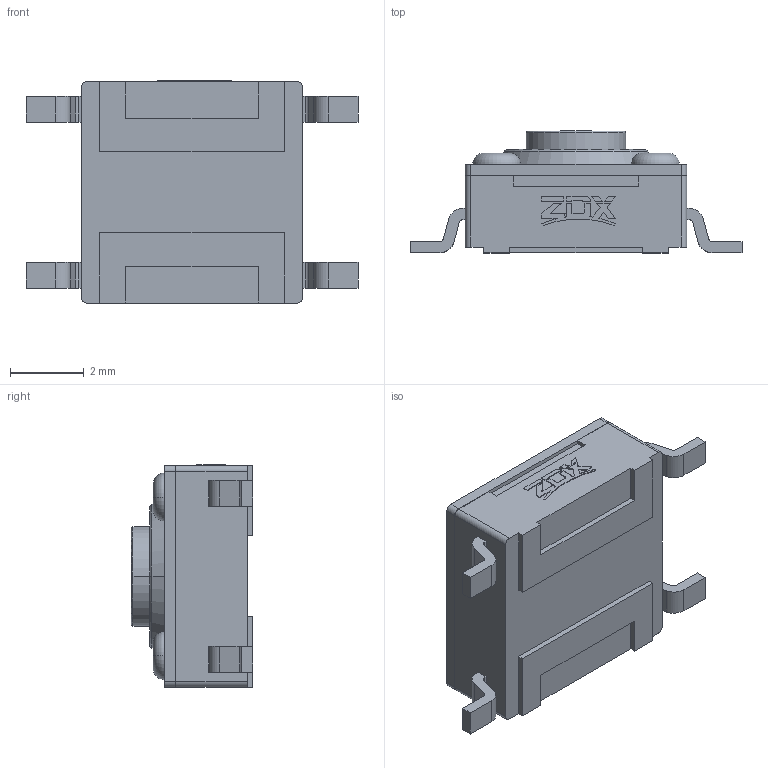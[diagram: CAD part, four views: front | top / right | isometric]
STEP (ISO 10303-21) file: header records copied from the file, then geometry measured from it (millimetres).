
FILE_DESCRIPTION((''),'2;1');
FILE_NAME('ASM0002_ASM','2024-01-09T',('WYH'),(''),'PRO/ENGINEER BY PARAMETRIC TECHNOLOGY CORPORATION, 2013040','PRO/ENGINEER BY PARAMETRIC TECHNOLOGY CORPORATION, 2013040','');
FILE_SCHEMA(('CONFIG_CONTROL_DESIGN'));
Length unit declared in the file: millimetre
Products named in the file (1): ASM0002_ASM
Bounding box: 9 x 3.3 x 6.02 mm (x, y, z)
Volume: 93.1 mm3; surface area: 228.8 mm2
Topology: 2 solids, 2 shells, 175 faces, 466 edges, 310 vertices
Faces by surface type: plane 125, cylinder 36, torus 12, cone 2
Entity records: 5470 total; most frequent: CARTESIAN_POINT 951, ORIENTED_EDGE 932, DIRECTION 926, EDGE_CURVE 466, VECTOR 356, LINE 356, VERTEX_POINT 310, AXIS2_PLACEMENT_3D 285
